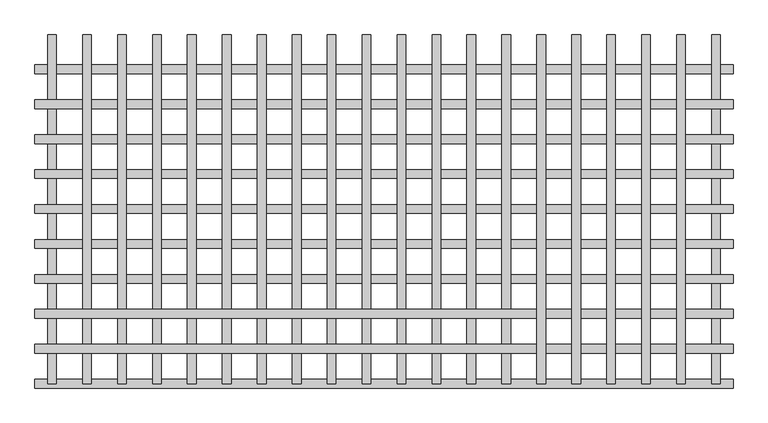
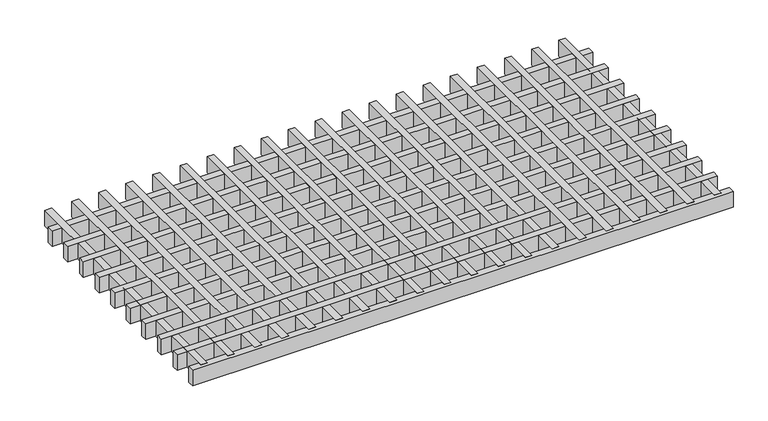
"""IFC4 building model written with IfcOpenShell, lengths in millimetres: proxy geometry, durlum_GEO_panel : durlum_GEO_15."""

from ifc_helpers import new_model, si_unit, origin, origin_with_axes, place, context, project, spatial, polyline, outline, extrude, source, transform, mapped, element, save


def generic_models_f8a980df(model_context):
    return source(origin(), model_context, "Body", "SweptSolid", [
        extrude(outline(polyline([(502.5, 299.5), (517.5, 299.5), (517.5, -299.5), (502.5, -299.5), (502.5, 299.5)])), origin_with_axes(), (0.0, 0.0, 1.0), 37.0),
        extrude(outline(polyline([(442.5, 299.5), (457.5, 299.5), (457.5, -299.5), (442.5, -299.5), (442.5, 299.5)])), origin_with_axes(), (0.0, 0.0, 1.0), 37.0),
        extrude(outline(polyline([(382.5, 299.5), (397.5, 299.5), (397.5, -299.5), (382.5, -299.5), (382.5, 299.5)])), origin_with_axes(), (0.0, 0.0, 1.0), 37.0),
        extrude(outline(polyline([(322.5, 299.5), (337.5, 299.5), (337.5, -299.5), (322.5, -299.5), (322.5, 299.5)])), origin_with_axes(), (0.0, 0.0, 1.0), 37.0),
        extrude(outline(polyline([(262.5, 299.5), (277.5, 299.5), (277.5, -299.5), (262.5, -299.5), (262.5, 299.5)])), origin_with_axes(), (0.0, 0.0, 1.0), 37.0),
        extrude(outline(polyline([(599.5, -232.0), (599.5, -247.0), (-599.5, -247.0), (-599.5, -232.0), (599.5, -232.0)])), origin_with_axes(), (0.0, 0.0, 1.0), 37.0),
        extrude(outline(polyline([(599.5, -172.0), (599.5, -187.0), (-599.5, -187.0), (-599.5, -172.0), (599.5, -172.0)])), origin_with_axes(), (0.0, 0.0, 1.0), 37.0),
        extrude(outline(polyline([(202.5, 299.5), (217.5, 299.5), (217.5, -299.5), (202.5, -299.5), (202.5, 299.5)])), origin_with_axes(), (0.0, 0.0, 1.0), 37.0),
        extrude(outline(polyline([(142.5, 299.5), (157.5, 299.5), (157.5, -299.5), (142.5, -299.5), (142.5, 299.5)])), origin_with_axes(), (0.0, 0.0, 1.0), 37.0),
        extrude(outline(polyline([(82.5, 299.5), (97.5, 299.5), (97.5, -299.5), (82.5, -299.5), (82.5, 299.5)])), origin_with_axes(), (0.0, 0.0, 1.0), 37.0),
        extrude(outline(polyline([(22.5, 299.5), (37.5, 299.5), (37.5, -299.5), (22.5, -299.5), (22.5, 299.5)])), origin_with_axes(), (0.0, 0.0, 1.0), 37.0),
        extrude(outline(polyline([(-37.5, 299.5), (-22.5, 299.5), (-22.5, -299.5), (-37.5, -299.5), (-37.5, 299.5)])), origin_with_axes(), (0.0, 0.0, 1.0), 37.0),
        extrude(outline(polyline([(-97.5, 299.5), (-82.5, 299.5), (-82.5, -299.5), (-97.5, -299.5), (-97.5, 299.5)])), origin_with_axes(), (0.0, 0.0, 1.0), 37.0),
        extrude(outline(polyline([(-157.5, 299.5), (-142.5, 299.5), (-142.5, -299.5), (-157.5, -299.5), (-157.5, 299.5)])), origin_with_axes(), (0.0, 0.0, 1.0), 37.0),
        extrude(outline(polyline([(-217.5, 299.5), (-202.5, 299.5), (-202.5, -299.5), (-217.5, -299.5), (-217.5, 299.5)])), origin_with_axes(), (0.0, 0.0, 1.0), 37.0),
        extrude(outline(polyline([(-277.5, 299.5), (-262.5, 299.5), (-262.5, -299.5), (-277.5, -299.5), (-277.5, 299.5)])), origin_with_axes(), (0.0, 0.0, 1.0), 37.0),
        extrude(outline(polyline([(-337.5, 299.5), (-322.5, 299.5), (-322.5, -299.5), (-337.5, -299.5), (-337.5, 299.5)])), origin_with_axes(), (0.0, 0.0, 1.0), 37.0),
        extrude(outline(polyline([(-397.5, 299.5), (-382.5, 299.5), (-382.5, -299.5), (-397.5, -299.5), (-397.5, 299.5)])), origin_with_axes(), (0.0, 0.0, 1.0), 37.0),
        extrude(outline(polyline([(-457.5, 299.5), (-442.5, 299.5), (-442.5, -299.5), (-457.5, -299.5), (-457.5, 299.5)])), origin_with_axes(), (0.0, 0.0, 1.0), 37.0),
        extrude(outline(polyline([(-517.5, 299.5), (-502.5, 299.5), (-502.5, -299.5), (-517.5, -299.5), (-517.5, 299.5)])), origin_with_axes(), (0.0, 0.0, 1.0), 37.0),
        extrude(outline(polyline([(599.5, -112.0), (599.5, -127.0), (-599.5, -127.0), (-599.5, -112.0), (599.5, -112.0)])), origin_with_axes(), (0.0, 0.0, 1.0), 37.0),
        extrude(outline(polyline([(599.5, -52.0), (599.5, -67.0), (-599.5, -67.0), (-599.5, -52.0), (599.5, -52.0)])), origin_with_axes(), (0.0, 0.0, 1.0), 37.0),
        extrude(outline(polyline([(599.5, 8.0), (599.5, -7.0), (-599.5, -7.0), (-599.5, 8.0), (599.5, 8.0)])), origin_with_axes(), (0.0, 0.0, 1.0), 37.0),
        extrude(outline(polyline([(599.5, 68.0), (599.5, 53.0), (-599.5, 53.0), (-599.5, 68.0), (599.5, 68.0)])), origin_with_axes(), (0.0, 0.0, 1.0), 37.0),
        extrude(outline(polyline([(599.5, 128.0), (599.5, 113.0), (-599.5, 113.0), (-599.5, 128.0), (599.5, 128.0)])), origin_with_axes(), (0.0, 0.0, 1.0), 37.0),
        extrude(outline(polyline([(599.5, 188.0), (599.5, 173.0), (-599.5, 173.0), (-599.5, 188.0), (599.5, 188.0)])), origin_with_axes(), (0.0, 0.0, 1.0), 37.0),
        extrude(outline(polyline([(562.5, 299.5), (577.5, 299.5), (577.5, -299.5), (562.5, -299.5), (562.5, 299.5)])), origin_with_axes(), (0.0, 0.0, 1.0), 37.0),
        extrude(outline(polyline([(-577.5, 299.5), (-562.5, 299.5), (-562.5, -299.5), (-577.5, -299.5), (-577.5, 299.5)])), origin_with_axes(), (0.0, 0.0, 1.0), 37.0),
        extrude(outline(polyline([(599.5, -292.0), (599.5, -307.0), (-599.5, -307.0), (-599.5, -292.0), (599.5, -292.0)])), origin_with_axes(), (0.0, 0.0, 1.0), 37.0),
        extrude(outline(polyline([(599.5, 248.0), (599.5, 233.0), (-599.5, 233.0), (-599.5, 248.0), (599.5, 248.0)])), origin_with_axes(), (0.0, 0.0, 1.0), 37.0),
    ])


if __name__ == "__main__":
    model = new_model("IFC4")
    model_context = context("Model", 3, world=origin())
    ifc_project = project(units=[si_unit("LENGTHUNIT", "METRE", prefix="MILLI")], contexts=[model_context])
    site = spatial("IfcSite", under=ifc_project)
    building = spatial("IfcBuilding", under=site)
    placement = place(None, origin())
    generic_models_shape = generic_models_f8a980df(model_context)
    element("IfcBuildingElementProxy", 1, Name="durlum_GEO_panel : durlum_GEO_15", ObjectType="durlum_GEO_panel : durlum_GEO_15", at=placement, inside=building, context=model_context, shape_type="MappedRepresentation", body=[
        mapped(generic_models_shape, transform((0.0, 0.0, 0.0), x_axis=(1.0, 0.0, 0.0), y_axis=(0.0, 1.0, 0.0), z_axis=(0.0, 0.0, 1.0))),
    ])
    save(model, "model.ifc")
